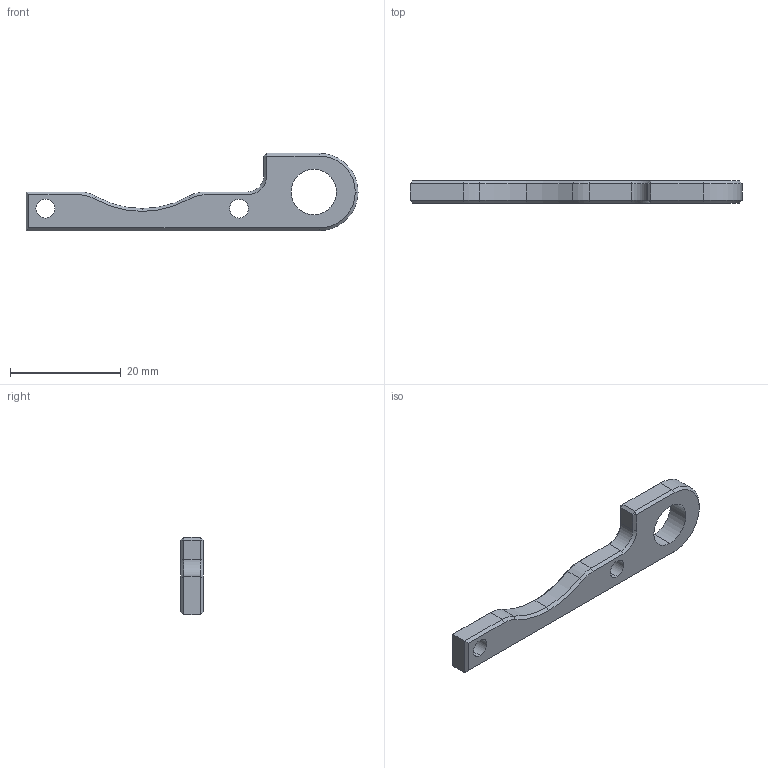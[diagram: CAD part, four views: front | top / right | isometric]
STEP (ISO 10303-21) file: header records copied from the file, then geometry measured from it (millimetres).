
FILE_DESCRIPTION (( 'STEP AP203' ), '1' );
FILE_NAME ('SH36012-Sensorhalter.STEP', '2016-01-26T13:25:34', ( '' ), ( '' ), 'SwSTEP 2.0', 'SolidWorks 2014', '' );
FILE_SCHEMA (( 'CONFIG_CONTROL_DESIGN' ));
Length unit declared in the file: millimetre
Products named in the file (1): SH36012-Sensorhalter
Bounding box: 60 x 4 x 14 mm (x, y, z)
Volume: 1601 mm3; surface area: 1488.8 mm2
Topology: 1 solids, 1 shells, 49 faces, 112 edges, 65 vertices
Faces by surface type: plane 23, cone 13, cylinder 13
Entity records: 1442 total; most frequent: DIRECTION 251, CARTESIAN_POINT 227, ORIENTED_EDGE 224, EDGE_CURVE 112, AXIS2_PLACEMENT_3D 89, LINE 73, VECTOR 73, VERTEX_POINT 65
